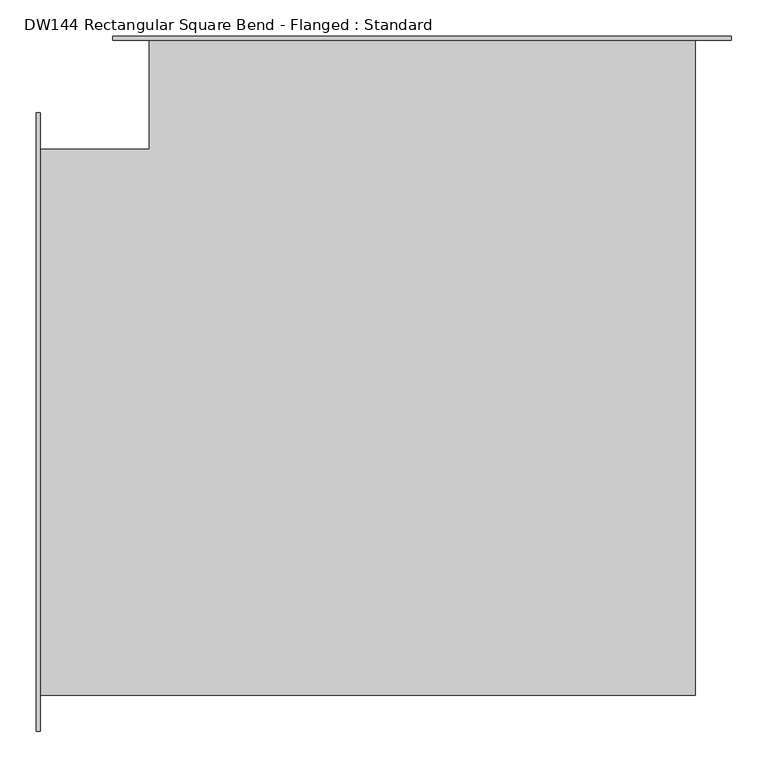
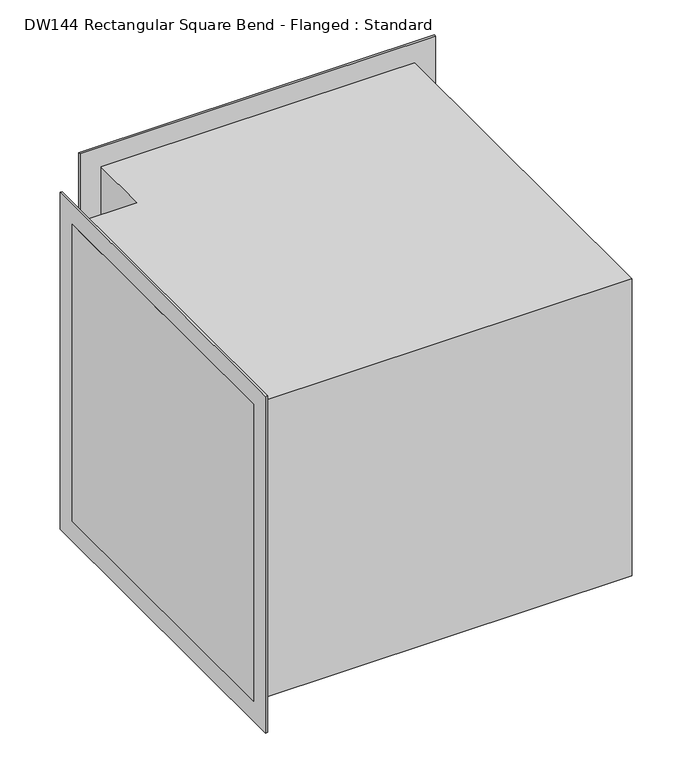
"""IFC4 building model written with IfcOpenShell, lengths in millimetres: duct fitting geometry, DW144 Rectangular Square Bend - Flanged : Standard."""

import ifcopenshell
import ifcopenshell.guid

model = None  # the IFC model being written
_history = None  # IfcOwnerHistory: only IFC2X3 demands one
_inside = {}  # id of a spatial element -> (the spatial element, [elements in it])
_under = {}  # id of a project, library or spatial element -> (it, [spatial elements below it])
_declared = {}  # id of a project -> (the project, [libraries it declares])
_typed = {}  # id of a type object -> (the type object, [elements of that type])
_made_of = {}  # id of a material, layer set ... -> (it, [elements and type objects made of it])


def new_model(schema):
    """Start an empty IFC model of exactly this schema.

    Asked for "IFC4X3", IfcOpenShell would pick the latest addendum, in which some entities
    have other attributes; the version numbers below select the first issue.
    IFC2X3 requires an IfcOwnerHistory on every rooted entity: one is made here for all.
    """
    global model, _history
    if schema == "IFC4X3":
        model = ifcopenshell.file(schema_version=(4, 3, 0, 0))
    else:
        model = ifcopenshell.file(schema=schema)
    _inside.clear()
    _under.clear()
    _declared.clear()
    _typed.clear()
    _made_of.clear()
    _history = None
    if model.schema == "IFC2X3":
        org = make("IfcOrganization", Name="unknown")
        user = make(
            "IfcPersonAndOrganization",
            ThePerson=make("IfcPerson", FamilyName="unknown"),
            TheOrganization=org,
        )
        app = make(
            "IfcApplication",
            ApplicationDeveloper=org,
            Version="unknown",
            ApplicationFullName="unknown",
            ApplicationIdentifier="unknown",
        )
        _history = make(
            "IfcOwnerHistory",
            OwningUser=user,
            OwningApplication=app,
            ChangeAction="ADDED",
            CreationDate=0,
        )
    return model


def make(cls, **values):
    """One entity of the class cls with the attributes given. An attribute that is None is left unset."""
    return model.create_entity(
        cls, **{name: value for name, value in values.items() if value is not None}
    )


def rooted(cls, **values):
    """An entity with a GlobalId (a new one), such as an element, a storey or a relation."""
    return make(cls, GlobalId=ifcopenshell.guid.new(), OwnerHistory=_history, **values)


def si_unit(unit_type, name, prefix=None):
    """IfcSIUnit, for example si_unit("LENGTHUNIT", "METRE", prefix="MILLI")."""
    return make("IfcSIUnit", UnitType=unit_type, Prefix=prefix, Name=name)


def assignment(units):
    """IfcUnitAssignment: the units of a project."""
    return None if units is None else make("IfcUnitAssignment", Units=units)


def point(xyz):
    """IfcCartesianPoint."""
    return None if xyz is None else make("IfcCartesianPoint", Coordinates=xyz)


def direction(xyz):
    """IfcDirection."""
    return None if xyz is None else make("IfcDirection", DirectionRatios=xyz)


def frame(location, z_axis=None, x_axis=None):
    """IfcAxis2Placement3D, a coordinate frame: its origin and axes. An axis left out is left unset."""
    return make(
        "IfcAxis2Placement3D",
        Location=point(location),
        Axis=direction(z_axis),
        RefDirection=direction(x_axis),
    )


def origin():
    """The frame at (0, 0, 0) with its axes left unset."""
    return frame((0.0, 0.0, 0.0))


def place(relative_to, where):
    """IfcLocalPlacement: puts the frame where relative to a parent placement (None: the world)."""
    return make(
        "IfcLocalPlacement", PlacementRelTo=relative_to, RelativePlacement=where
    )


def context(
    kind, dimensions, precision=None, world=None, true_north=None, identifier=None
):
    """IfcGeometricRepresentationContext, for example the 3D "Model" context."""
    return make(
        "IfcGeometricRepresentationContext",
        ContextIdentifier=identifier,
        ContextType=kind,
        CoordinateSpaceDimension=dimensions,
        Precision=precision,
        WorldCoordinateSystem=world,
        TrueNorth=true_north,
    )


def project(units=None, contexts=None):
    """IfcProject with its units and contexts."""
    return rooted(
        "IfcProject",
        Name="project",
        RepresentationContexts=contexts,
        UnitsInContext=assignment(units),
    )


def spatial(cls, under=None, at=None, **own):
    """A site, building, storey or space (cls), placed at a placement, below another one or the project."""
    s = rooted(cls, ObjectPlacement=at, **own)
    if under is not None:
        _under.setdefault(under.id(), (under, []))[1].append(s)
    return s


def polyline(points):
    """IfcPolyline through the points."""
    return make("IfcPolyline", Points=[point(p) for p in points])


def outline(outer, holes=None, kind="AREA"):
    """IfcArbitraryClosedProfileDef: a profile drawn as a closed curve; with holes, ...WithVoids."""
    if holes is None:
        return make("IfcArbitraryClosedProfileDef", ProfileType=kind, OuterCurve=outer)
    return make(
        "IfcArbitraryProfileDefWithVoids",
        ProfileType=kind,
        OuterCurve=outer,
        InnerCurves=holes,
    )


def extrude(swept, where, along, depth):
    """IfcExtrudedAreaSolid: the profile swept, set in the frame where, extruded along a direction by depth."""
    return make(
        "IfcExtrudedAreaSolid",
        SweptArea=swept,
        Position=where,
        ExtrudedDirection=direction(along),
        Depth=depth,
    )


def shape(context_of_items, identifier, shape_type, items):
    """IfcShapeRepresentation: the items that make up one representation, for example the "Body"."""
    return make(
        "IfcShapeRepresentation",
        ContextOfItems=context_of_items,
        RepresentationIdentifier=identifier,
        RepresentationType=shape_type,
        Items=items,
    )


def source(mapping_origin, context_of_items, identifier, shape_type, items):
    """IfcRepresentationMap: a shape defined once, which mapped items show again and again."""
    return make(
        "IfcRepresentationMap",
        MappingOrigin=mapping_origin,
        MappedRepresentation=shape(context_of_items, identifier, shape_type, items),
    )


def transform(
    local_origin,
    x_axis=None,
    y_axis=None,
    z_axis=None,
    scale=None,
    scale2=None,
    scale3=None,
    uniform=True,
):
    """IfcCartesianTransformationOperator3D, or its non-uniform kind. x_axis, y_axis, z_axis: its Axis1, 2, 3."""
    if uniform:
        return make(
            "IfcCartesianTransformationOperator3D",
            Axis1=direction(x_axis),
            Axis2=direction(y_axis),
            LocalOrigin=point(local_origin),
            Scale=scale,
            Axis3=direction(z_axis),
        )
    return make(
        "IfcCartesianTransformationOperator3DnonUniform",
        Axis1=direction(x_axis),
        Axis2=direction(y_axis),
        LocalOrigin=point(local_origin),
        Scale=scale,
        Axis3=direction(z_axis),
        Scale2=scale2,
        Scale3=scale3,
    )


def mapped(mapping_source, mapping_target):
    """IfcMappedItem: shows the shape of a source again, moved by a transform."""
    return make(
        "IfcMappedItem", MappingSource=mapping_source, MappingTarget=mapping_target
    )


def made_of(thing, what):
    """Note that an element or type object is made of a material, layer set ...; save() writes the relation."""
    if what is not None:
        _made_of.setdefault(what.id(), (what, []))[1].append(thing)
    return thing


def element(
    cls,
    number,
    at=None,
    inside=None,
    cuts=None,
    type_object=None,
    material=None,
    context=None,
    identifier="Body",
    shape_type=None,
    held_by="IfcProductDefinitionShape",
    body=None,
    shapes=None,
    **own,
):
    """One element of the class cls, such as IfcWall. Its Tag is "e" and its number.

    at: its placement. inside: the storey or other place that contains it. cuts: it is an
    opening in that element (IfcRelVoidsElement). A single representation is given by context,
    identifier, shape_type and body (its items); several are given by shapes. held_by: the class
    of the entity that holds the representations. save() writes the other relations.
    """
    e = rooted(cls, Tag="e%d" % number, ObjectPlacement=at, **own)
    if body is not None:
        shapes = [shape(context, identifier, shape_type, body)]
    if shapes is not None:
        e.Representation = make(held_by, Representations=shapes)
    if inside is not None:
        _inside.setdefault(inside.id(), (inside, []))[1].append(e)
    if cuts is not None:
        rooted(
            "IfcRelVoidsElement", RelatingBuildingElement=cuts, RelatedOpeningElement=e
        )
    if type_object is not None:
        _typed.setdefault(type_object.id(), (type_object, []))[1].append(e)
    return made_of(e, material)


def aggregate(whole, parts):
    """IfcRelAggregates: a whole, such as a stair, and the parts it consists of."""
    return rooted("IfcRelAggregates", RelatingObject=whole, RelatedObjects=parts)


def save(model, path):
    """Write the relations noted so far, then the file.

    IfcRelAggregates (storeys below a building ...), IfcRelContainedInSpatialStructure (elements
    in a storey), IfcRelDefinesByType, IfcRelAssociatesMaterial and IfcRelDeclares: one each for
    every whole, place, type object, material and project.
    """
    for whole, parts in _under.values():
        aggregate(whole, parts)
    for where, things in _inside.values():
        rooted(
            "IfcRelContainedInSpatialStructure",
            RelatedElements=things,
            RelatingStructure=where,
        )
    for kind, things in _typed.values():
        rooted("IfcRelDefinesByType", RelatedObjects=things, RelatingType=kind)
    for what, things in _made_of.values():
        rooted("IfcRelAssociatesMaterial", RelatedObjects=things, RelatingMaterial=what)
    for by, libraries in _declared.values():
        rooted("IfcRelDeclares", RelatingContext=by, RelatedDefinitions=libraries)
    model.write(path)


def dw144_rectangular_square_bend_flanged_standard_92bc3252(model_context):
    return source(origin(), model_context, "Body", "SweptSolid", [
        extrude(outline(polyline([(-530.0, -375.0), (-530.0, 375.0), (-375.0, 375.0), (-375.0, 530.0), (375.0, 530.0), (375.0, -375.0), (-530.0, -375.0)])), frame((0.0, 0.0, -375.0), z_axis=(0.0, 0.0, 1.0), x_axis=(1.0, 0.0, 0.0)), (0.0, 0.0, 1.0), 750.0),
        extrude(outline(polyline([(425.0, 525.0), (-425.0, 525.0), (-425.0, 530.0), (425.0, 530.0), (425.0, 525.0)])), frame((0.0, 0.0, -425.0), z_axis=(0.0, 0.0, 1.0), x_axis=(1.0, 0.0, 0.0)), (0.0, 0.0, 1.0), 850.0),
        extrude(outline(polyline([(-530.0, -425.0), (-530.0, 425.0), (-525.0, 425.0), (-525.0, -425.0), (-530.0, -425.0)])), frame((0.0, 0.0, -425.0), z_axis=(0.0, 0.0, 1.0), x_axis=(1.0, 0.0, 0.0)), (0.0, 0.0, 1.0), 850.0),
    ])


if __name__ == "__main__":
    model = new_model("IFC4")
    model_context = context("Model", 3, world=origin())
    ifc_project = project(units=[si_unit("LENGTHUNIT", "METRE", prefix="MILLI")], contexts=[model_context])
    site = spatial("IfcSite", under=ifc_project)
    building = spatial("IfcBuilding", under=site)
    placement = place(None, origin())
    dw144_rectangular_square_bend_flanged_standard_shape = dw144_rectangular_square_bend_flanged_standard_92bc3252(model_context)
    element("IfcDuctFitting", 1, ObjectType="DW144 Rectangular Square Bend - Flanged : Standard", at=placement, inside=building, context=model_context, shape_type="MappedRepresentation", body=[
        mapped(dw144_rectangular_square_bend_flanged_standard_shape, transform((0.0, 0.0, 0.0), x_axis=(1.0, 0.0, 0.0), y_axis=(0.0, 1.0, 0.0), z_axis=(0.0, 0.0, 1.0))),
    ])
    save(model, "model.ifc")
